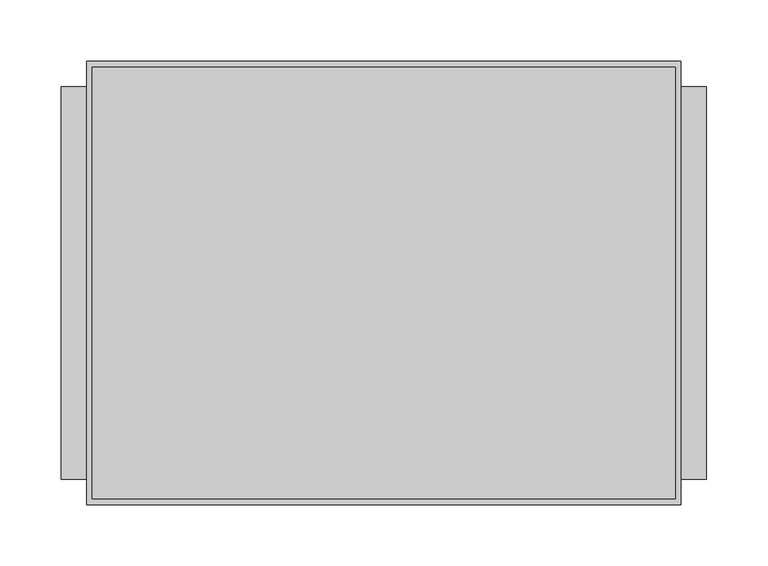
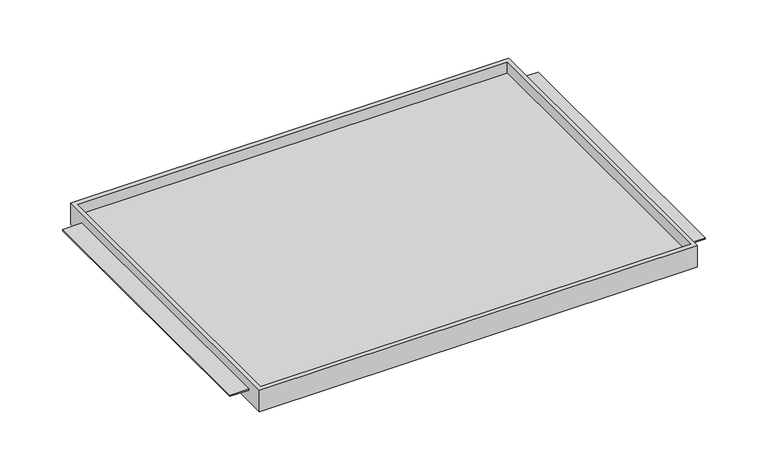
"""IFC4 building model written with IfcOpenShell, lengths in millimetres: furniture geometry."""

from ifc_helpers import new_model, si_unit, origin, place, context, project, spatial, faceted_brep, source, transform, mapped, element, save


def furniture_6ecb9068(model_context):
    return source(origin(), model_context, "Body", "Brep", [
        faceted_brep([(-242.7689646, -180.975, 1602.58252), (242.7689646, -180.975, 1602.58252), (242.7689646, -180.975, 1627.98252), (-242.7689646, -180.975, 1627.98252), (-242.7689646, 180.975, 1602.58252), (-242.7689646, 180.975, 1627.98252), (242.7689646, 180.975, 1627.98252), (242.7689646, 180.975, 1602.58252), (242.7689646, -160.3374879, 1616.88272), (242.7689646, 160.3374879, 1616.88272), (242.7689646, 160.3374879, 1615.28252), (242.7689646, -160.3374879, 1615.28252), (238.125, -176.2125, 1627.98252), (-238.125, -176.2125, 1627.98252), (-238.125, 175.91278, 1627.98252), (238.125, 175.91278, 1627.98252), (-242.7689646, 160.3374879, 1616.88272), (-242.7689646, -160.3374879, 1616.88272), (-242.7689646, -160.3374879, 1615.28252), (-242.7689646, 160.3374879, 1615.28252), (-238.125, -176.2125, 1615.28252), (238.125, -176.2125, 1615.28252), (238.125, 175.91278, 1615.28252), (-238.125, 175.91278, 1615.28252), (-263.525, 160.3374879, 1616.88272), (-263.525, -160.3374879, 1616.88272), (263.525, -160.3374879, 1616.88272), (263.525, 160.3374879, 1616.88272), (-263.525, -160.3374879, 1615.28252), (-263.525, 160.3374879, 1615.28252), (263.525, -160.3374879, 1615.28252), (263.525, 160.3374879, 1615.28252)], [[[0, 1, 2, 3]], [[4, 5, 6, 7]], [[1, 0, 4, 7]], [[2, 1, 7, 6], [8, 9, 10, 11]], [[3, 2, 6, 5], [12, 13, 14, 15]], [[0, 3, 5, 4], [16, 17, 18, 19]], [[20, 21, 22, 23]], [[21, 20, 13, 12]], [[22, 21, 12, 15]], [[23, 22, 15, 14]], [[20, 23, 14, 13]], [[16, 24, 25, 17]], [[26, 27, 9, 8]], [[18, 28, 29, 19]], [[30, 11, 10, 31]], [[24, 16, 19, 29]], [[25, 24, 29, 28]], [[17, 25, 28, 18]], [[27, 26, 30, 31]], [[9, 27, 31, 10]], [[26, 8, 11, 30]]]),
    ])


if __name__ == "__main__":
    model = new_model("IFC4")
    model_context = context("Model", 3, world=origin())
    ifc_project = project(units=[si_unit("LENGTHUNIT", "METRE", prefix="MILLI")], contexts=[model_context])
    site = spatial("IfcSite", under=ifc_project)
    building = spatial("IfcBuilding", under=site)
    placement = place(None, origin())
    furniture_shape = furniture_6ecb9068(model_context)
    element("IfcFurniture", 1, ObjectType="HermanMiller_CoStruc_CO203_CTrayShelf : 14\"D x 20\"W", at=placement, inside=building, context=model_context, shape_type="MappedRepresentation", body=[
        mapped(furniture_shape, transform((0.0, 0.0, 0.0), x_axis=(1.0, 0.0, 0.0), y_axis=(0.0, 1.0, 0.0), z_axis=(0.0, 0.0, 1.0))),
    ])
    save(model, "model.ifc")
